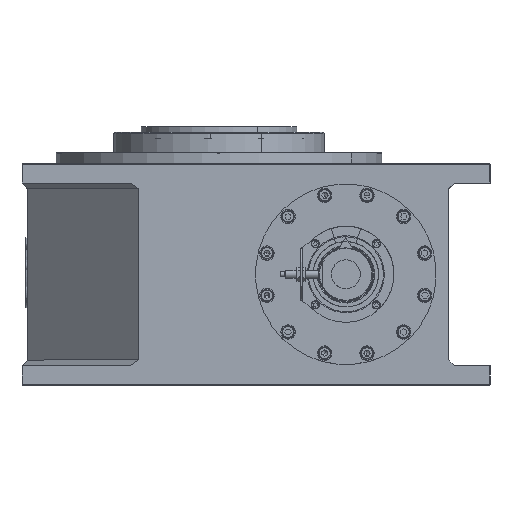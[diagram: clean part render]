
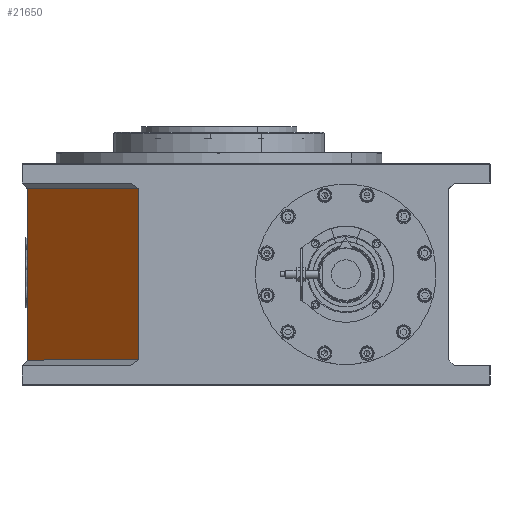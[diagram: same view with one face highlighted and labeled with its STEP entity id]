
A CAD part, top view. The second image highlights one B-rep face of the part: STEP entity #21650.
In plain terms, the highlighted planar face has unit normal (-0.707, 0, 0.707).
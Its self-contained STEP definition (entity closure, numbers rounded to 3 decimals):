
#75 = DIRECTION ( 'NONE',  ( 0., -1., 0. ) ) ;
#308 = EDGE_LOOP ( 'NONE', ( #60633, #47739, #27798, #53955 ) ) ;
#1525 = VECTOR ( 'NONE', #19984, 1000. ) ;
#1989 = VERTEX_POINT ( 'NONE', #64581 ) ;
#2083 = CARTESIAN_POINT ( 'NONE',  ( -199., 210., 83.259 ) ) ;
#7279 = AXIS2_PLACEMENT_3D ( 'NONE', #50656, #20572, #25122 ) ;
#8468 = VECTOR ( 'NONE', #75, 1000. ) ;
#8661 = CARTESIAN_POINT ( 'NONE',  ( -83.259, 26., 199. ) ) ;
#9264 = LINE ( 'NONE', #55076, #8468 ) ;
#9845 = LINE ( 'NONE', #55024, #1525 ) ;
#10914 = VERTEX_POINT ( 'NONE', #38895 ) ;
#15085 = EDGE_CURVE ( 'NONE', #10914, #1989, #52456, .T. ) ;
#19984 = DIRECTION ( 'NONE',  ( -0.707, 0., -0.707 ) ) ;
#19998 = LINE ( 'NONE', #8661, #34861 ) ;
#20572 = DIRECTION ( 'NONE',  ( 0.707, 0., -0.707 ) ) ;
#21650 = ADVANCED_FACE ( 'NONE', ( #54283 ), #39801, .F. ) ;
#25122 = DIRECTION ( 'NONE',  ( -0.707, 0., -0.707 ) ) ;
#27798 = ORIENTED_EDGE ( 'NONE', *, *, #15085, .T. ) ;
#28015 = VERTEX_POINT ( 'NONE', #43940 ) ;
#32165 = DIRECTION ( 'NONE',  ( 0., -1., 0. ) ) ;
#32281 = VERTEX_POINT ( 'NONE', #56680 ) ;
#33191 = DIRECTION ( 'NONE',  ( 0.707, 0., 0.707 ) ) ;
#34861 = VECTOR ( 'NONE', #33191, 1000. ) ;
#35157 = EDGE_CURVE ( 'NONE', #1989, #28015, #19998, .T. ) ;
#38895 = CARTESIAN_POINT ( 'NONE',  ( -199., 204., 83.259 ) ) ;
#39801 = PLANE ( 'NONE',  #7279 ) ;
#43940 = CARTESIAN_POINT ( 'NONE',  ( -83.259, 26., 199. ) ) ;
#47739 = ORIENTED_EDGE ( 'NONE', *, *, #53340, .T. ) ;
#50656 = CARTESIAN_POINT ( 'NONE',  ( -83.259, 210., 199. ) ) ;
#52456 = LINE ( 'NONE', #2083, #64226 ) ;
#53340 = EDGE_CURVE ( 'NONE', #32281, #10914, #9845, .T. ) ;
#53955 = ORIENTED_EDGE ( 'NONE', *, *, #35157, .T. ) ;
#54283 = FACE_OUTER_BOUND ( 'NONE', #308, .T. ) ;
#55024 = CARTESIAN_POINT ( 'NONE',  ( -199., 204., 83.259 ) ) ;
#55076 = CARTESIAN_POINT ( 'NONE',  ( -83.259, 210., 199. ) ) ;
#56680 = CARTESIAN_POINT ( 'NONE',  ( -83.259, 204., 199. ) ) ;
#58288 = EDGE_CURVE ( 'NONE', #32281, #28015, #9264, .T. ) ;
#60633 = ORIENTED_EDGE ( 'NONE', *, *, #58288, .F. ) ;
#64226 = VECTOR ( 'NONE', #32165, 1000. ) ;
#64581 = CARTESIAN_POINT ( 'NONE',  ( -199., 26., 83.259 ) ) ;
